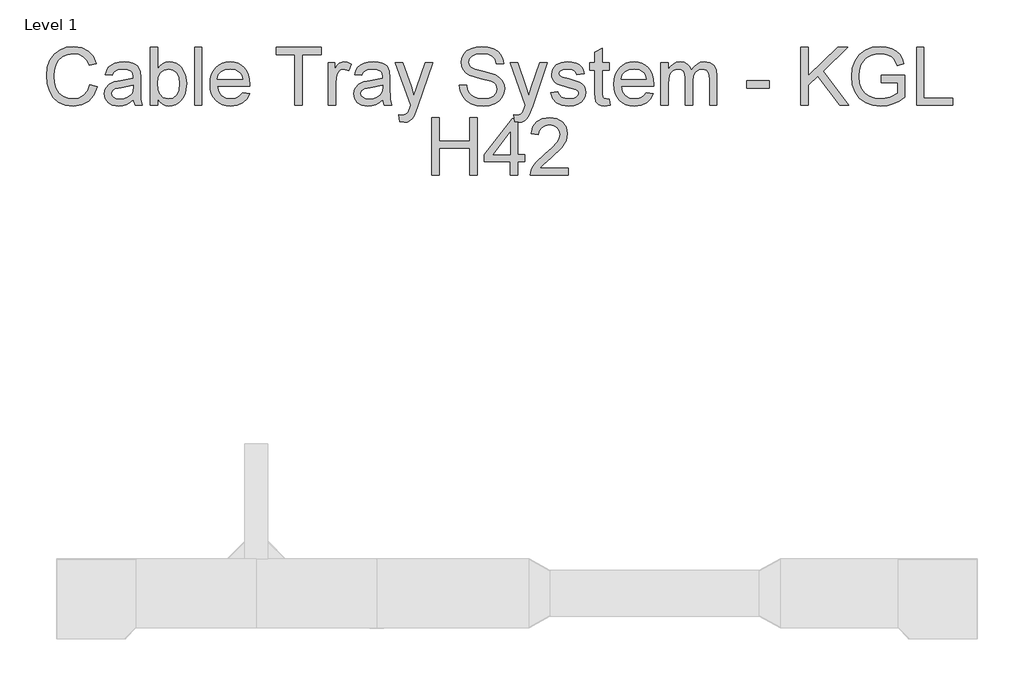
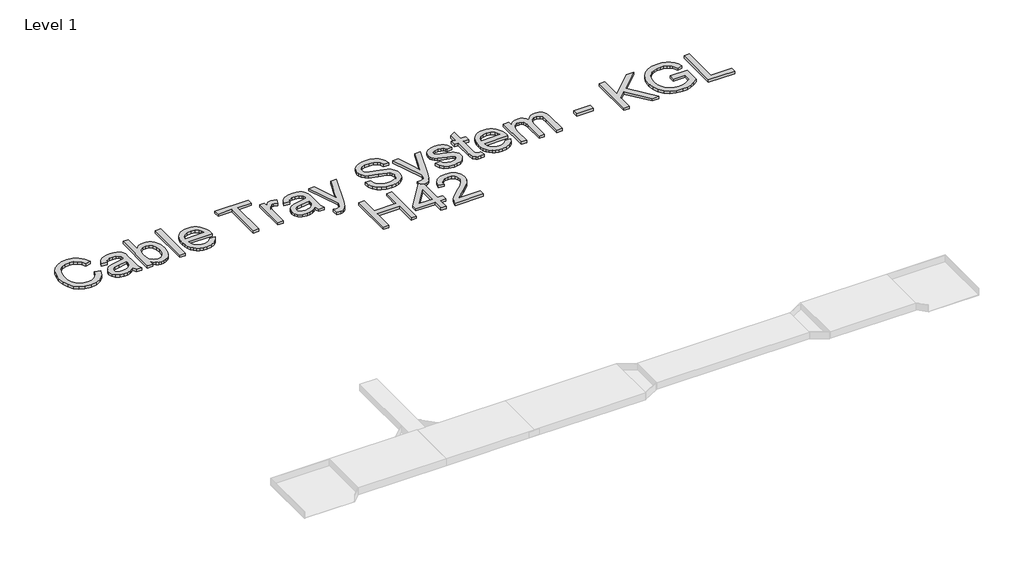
# One storey, part 15 of 32: 1 proxy.
"""IFC4 building model written with IfcOpenShell, lengths in millimetres."""

from ifc_helpers import new_model, si_unit, origin, origin_with_axes, place, context, project, spatial, polyline, outline, extrude, element, save

model = new_model("IFC4")

# Units and contexts
model_context = context("Model", 3, world=origin())
ifc_project = project(units=[si_unit("LENGTHUNIT", "METRE", prefix="MILLI")], contexts=[model_context])

# Site, building, storey
site = spatial("IfcSite", under=ifc_project)
building = spatial("IfcBuilding", under=site)
storey = spatial("IfcBuildingStorey", under=building, Name="Level 1", Elevation=0.0)

# Proxy
placement = place(None, origin())
element("IfcBuildingElementProxy", 1, Name="250mm Arial 3", ObjectType="250mm Arial 3", at=placement, inside=storey, context=model_context, shape_type="SweptSolid", body=[
    extrude(outline(polyline([(-11348.2195106, 71592.4106539), (-11316.8269137, 71584.31725), (-11331.3122672, 71547.7359841), (-11354.0443088, 71521.01089), (-11383.9040641, 71504.6631338), (-11419.7725586, 71499.2138818), (-11456.185212, 71503.3372258), (-11485.1022696, 71515.7072579), (-11507.2671598, 71535.8947824), (-11523.4233108, 71563.4706036), (-11533.2871468, 71595.8902044), (-11536.5750921, 71630.6090677), (-11532.8579511, 71667.2286547), (-11521.7065281, 71698.8511778), (-11503.703303, 71724.472626), (-11479.4307555, 71743.0889878), (-11450.6439894, 71754.4243517), (-11419.0981083, 71758.2028064), (-11384.6781491, 71753.3130415), (-11356.220944, 71738.643747), (-11334.615541, 71715.0992993), (-11320.7509883, 71683.584075), (-11352.1435852, 71676.1038078), (-11363.0267609, 71698.9967978), (-11377.8953249, 71714.7007605), (-11396.9332181, 71723.7828472), (-11420.3243816, 71726.8102095), (-11447.2870662, 71723.4532863), (-11469.436628, 71713.3825166), (-11486.2442366, 71697.6555613), (-11497.1810618, 71677.3300811), (-11503.1821368, 71654.3527848), (-11505.1824952, 71630.6703814), (-11502.8142548, 71601.6690174), (-11495.7095338, 71576.5917281), (-11483.6000848, 71556.3965394), (-11466.2176605, 71542.0414774), (-11445.3786784, 71533.4652284), (-11422.8995556, 71530.6064787), (-11396.6956277, 71534.4998965), (-11374.8602984, 71546.1801498), (-11358.3745865, 71565.5246114), (-11348.2195106, 71592.4106539)])), origin_with_axes(), (0.0, 0.0, 1.0), 15.0),
    extrude(outline(polyline([(-11159.8639291, 71526.6824041), (-11174.8627846, 71513.8218627), (-11190.3061642, 71505.406562), (-11206.5466214, 71500.7620518), (-11223.9367099, 71499.2138818), (-11250.1712947, 71502.938687), (-11269.5234204, 71514.1131026), (-11281.4565927, 71531.0816596), (-11285.4343167, 71552.1888891), (-11283.9321319, 71565.2027147), (-11279.4255775, 71577.0209238), (-11263.6373085, 71595.0471415), (-11241.6563593, 71605.3478374), (-11214.4944053, 71610.0689897), (-11160.04787, 71620.8601949), (-11159.8639291, 71627.8499528), (-11162.0252358, 71641.8601254), (-11168.5091559, 71651.0265185), (-11183.0098379, 71657.8323354), (-11203.2126908, 71660.100941), (-11221.9133589, 71658.591092), (-11234.9731697, 71654.0615449), (-11243.8789797, 71645.6845653), (-11250.1176452, 71632.6324187), (-11281.5102421, 71636.5564933), (-11276.0609901, 71653.7243198), (-11267.9292651, 71667.2133262), (-11256.3563107, 71677.5293505), (-11240.5833702, 71685.1782303), (-11221.292558, 71689.914711), (-11199.1659889, 71691.4935379), (-11177.9437963, 71690.098652), (-11161.1208592, 71685.9139943), (-11148.4365946, 71679.6216794), (-11139.6304193, 71671.9038217), (-11130.0041738, 71650.5973228), (-11128.4713321, 71623.1288005), (-11128.4713321, 71584.0719953), (-11126.8771768, 71529.5334896), (-11120.6231829, 71503.1379564), (-11152.0157798, 71503.1379564), (-11159.8639291, 71526.6824041)]), holes=[polyline([(-11159.8639291, 71589.4675979), (-11210.5090171, 71579.8413524), (-11237.5176869, 71574.7523181), (-11249.7497632, 71566.4749732), (-11254.0417198, 71554.3961811), (-11251.7041363, 71545.0611754), (-11244.6913858, 71537.4122956), (-11233.1567524, 71532.3079329), (-11217.2535203, 71530.6064787), (-11200.3922622, 71532.4842097), (-11185.4930414, 71538.1174028), (-11173.4142492, 71546.4177403), (-11165.014277, 71556.2969047), (-11161.2894718, 71566.4749732), (-11160.04787, 71580.5771164), (-11159.8639291, 71589.4675979)])]), origin_with_axes(), (0.0, 0.0, 1.0), 15.0),
    extrude(outline(polyline([(-11053.9139144, 71503.1379564), (-11085.3065114, 71503.1379564), (-11085.3065114, 71754.2787318), (-11053.9139144, 71754.2787318), (-11053.9139144, 71661.1432733), (-11043.590226, 71674.4215141), (-11031.9329652, 71683.9059718), (-11018.9421323, 71689.5966464), (-11004.6177271, 71691.4935379), (-10988.4462477, 71689.7844195), (-10973.1638165, 71684.6570642), (-10959.6441532, 71676.4333687), (-10948.7609775, 71665.4352299), (-10933.7697862, 71635.5448178), (-10928.3435268, 71598.1128248), (-10933.9613914, 71556.2049342), (-10940.9837222, 71539.2746982), (-10950.8149853, 71525.0269351), (-10962.6159499, 71513.7337243), (-10975.5473853, 71505.6671451), (-10989.6092913, 71500.8271976), (-11004.8016681, 71499.2138818), (-11019.5974221, 71501.2947143), (-11032.7147145, 71507.5372119), (-11044.1535453, 71517.9413746), (-11053.9139144, 71532.5072023), (-11053.9139144, 71503.1379564)]), holes=[polyline([(-11053.9139144, 71596.6412968), (-11051.7679361, 71570.4603615), (-11045.3300012, 71552.7407121), (-11028.8826104, 71536.140037), (-11007.4994694, 71530.6064787), (-10989.3812811, 71534.6838375), (-10973.8995805, 71546.9159138), (-10963.2769879, 71567.2260656), (-10959.7361237, 71595.5376509), (-10963.1313679, 71624.2631033), (-10973.3171007, 71644.3433289), (-10988.3159562, 71656.161538), (-11006.1505687, 71660.100941), (-11024.268757, 71656.0235822), (-11039.7504576, 71643.7915059), (-11050.3730502, 71623.8492361), (-11053.9139144, 71596.6412968)])]), origin_with_axes(), (0.0, 0.0, 1.0), 15.0),
    extrude(outline(polyline([(-10893.0268552, 71503.1379564), (-10893.0268552, 71754.2787318), (-10861.6342583, 71754.2787318), (-10861.6342583, 71503.1379564), (-10893.0268552, 71503.1379564)])), origin_with_axes(), (0.0, 0.0, 1.0), 15.0),
    extrude(outline(polyline([(-10685.4187826, 71558.075001), (-10654.6393223, 71554.1509264), (-10665.7294317, 71530.9590323), (-10683.4260885, 71513.6225933), (-10707.3307539, 71502.8160597), (-10737.0448893, 71499.2138818), (-10756.5234745, 71500.7678), (-10773.879074, 71505.4295547), (-10789.1116879, 71513.1991458), (-10802.2213161, 71524.0765733), (-10812.7634345, 71537.759101), (-10820.2935191, 71553.9439928), (-10824.8115698, 71572.6312485), (-10826.3175868, 71593.8208682), (-10824.7962414, 71615.7290074), (-10820.2322054, 71635.0389801), (-10812.6254788, 71651.7507861), (-10801.9760614, 71665.8644256), (-10788.9009222, 71677.0771622), (-10774.0170298, 71685.0862598), (-10757.3243842, 71689.8917184), (-10738.8229856, 71691.4935379), (-10720.9174791, 71689.8955505), (-10704.7249231, 71685.1015883), (-10690.2453177, 71677.1116512), (-10677.4786629, 71665.9257393), (-10667.0572557, 71651.8427566), (-10659.6133935, 71635.1616074), (-10655.1470761, 71615.8822916), (-10653.6583037, 71594.0048092), (-10653.8422447, 71585.5435233), (-10794.9249898, 71585.5435233), (-10789.4910662, 71562.0450609), (-10776.8681152, 71544.7699355), (-10758.6502923, 71534.1473429), (-10736.4317526, 71530.6064787), (-10719.7237787, 71532.2466193), (-10705.6522923, 71537.1670409), (-10694.2172937, 71545.6743121), (-10685.4187826, 71558.075001)]), holes=[polyline([(-10794.9249898, 71616.9361202), (-10685.0509006, 71616.9361202), (-10689.296872, 71633.5214669), (-10697.6202021, 71645.3856612), (-10715.9223314, 71656.4221211), (-10738.9456129, 71660.100941), (-10760.1064918, 71657.1655493), (-10777.6038792, 71648.359374), (-10789.7669777, 71634.632777), (-10794.9249898, 71616.9361202)])]), origin_with_axes(), (0.0, 0.0, 1.0), 15.0),
    extrude(outline(polyline([(-10457.4545729, 71503.1379564), (-10457.4545729, 71722.8861348), (-10539.8601398, 71722.8861348), (-10539.8601398, 71754.2787318), (-10343.6564091, 71754.2787318), (-10343.6564091, 71722.8861348), (-10426.061976, 71722.8861348), (-10426.061976, 71503.1379564), (-10457.4545729, 71503.1379564)])), origin_with_axes(), (0.0, 0.0, 1.0), 15.0),
    extrude(outline(polyline([(-10312.2638122, 71503.1379564), (-10312.2638122, 71687.5694633), (-10284.7952899, 71687.5694633), (-10284.7952899, 71660.284882), (-10274.6478782, 71676.1038078), (-10265.2975441, 71685.423485), (-10245.677171, 71691.4935379), (-10230.0421862, 71689.0716481), (-10214.1619468, 71681.8059787), (-10224.6465836, 71653.6630061), (-10246.7195034, 71660.100941), (-10256.09283, 71658.5527709), (-10264.4698096, 71653.9082608), (-10275.782181, 71636.7404343), (-10280.8712152, 71600.0748621), (-10280.8712152, 71503.1379564), (-10312.2638122, 71503.1379564)])), origin_with_axes(), (0.0, 0.0, 1.0), 15.0),
    extrude(outline(polyline([(-10076.8193353, 71526.6824041), (-10091.8181908, 71513.8218627), (-10107.2615704, 71505.406562), (-10123.5020276, 71500.7620518), (-10140.8921161, 71499.2138818), (-10167.1267009, 71502.938687), (-10186.4788266, 71514.1131026), (-10198.4119989, 71531.0816596), (-10202.3897229, 71552.1888891), (-10200.8875381, 71565.2027147), (-10196.3809837, 71577.0209238), (-10180.5927147, 71595.0471415), (-10158.6117655, 71605.3478374), (-10131.4498115, 71610.0689897), (-10077.0032762, 71620.8601949), (-10076.8193353, 71627.8499528), (-10078.980642, 71641.8601254), (-10085.4645621, 71651.0265185), (-10099.9652441, 71657.8323354), (-10120.168097, 71660.100941), (-10138.8687651, 71658.591092), (-10151.9285759, 71654.0615449), (-10160.8343859, 71645.6845653), (-10167.0730514, 71632.6324187), (-10198.4656483, 71636.5564933), (-10193.0163963, 71653.7243198), (-10184.8846713, 71667.2133262), (-10173.3117169, 71677.5293505), (-10157.5387764, 71685.1782303), (-10138.2479642, 71689.914711), (-10116.1213951, 71691.4935379), (-10094.8992025, 71690.098652), (-10078.0762654, 71685.9139943), (-10065.3920008, 71679.6216794), (-10056.5858255, 71671.9038217), (-10046.95958, 71650.5973228), (-10045.4267383, 71623.1288005), (-10045.4267383, 71584.0719953), (-10043.832583, 71529.5334896), (-10037.5785891, 71503.1379564), (-10068.971186, 71503.1379564), (-10076.8193353, 71526.6824041)]), holes=[polyline([(-10076.8193353, 71589.4675979), (-10127.4644233, 71579.8413524), (-10154.4730931, 71574.7523181), (-10166.7051694, 71566.4749732), (-10170.997126, 71554.3961811), (-10168.6595425, 71545.0611754), (-10161.646792, 71537.4122956), (-10150.1121586, 71532.3079329), (-10134.2089265, 71530.6064787), (-10117.3476684, 71532.4842097), (-10102.4484476, 71538.1174028), (-10090.3696554, 71546.4177403), (-10081.9696832, 71556.2969047), (-10078.244878, 71566.4749732), (-10077.0032762, 71580.5771164), (-10076.8193353, 71589.4675979)])]), origin_with_axes(), (0.0, 0.0, 1.0), 15.0),
    extrude(outline(polyline([(-10002.2619176, 71432.5046133), (-10006.1859922, 71462.7322506), (-9990.2444391, 71459.9731356), (-9975.3452182, 71463.4373577), (-9966.209482, 71473.0942601), (-9957.6255688, 71496.2095122), (-9955.1730222, 71503.8124067), (-10021.8822906, 71687.5694633), (-9988.7729111, 71687.5694633), (-9953.3949259, 71585.1756413), (-9941.070879, 71544.2181125), (-9928.7468322, 71580.3931754), (-9892.3878283, 71687.5694633), (-9859.5237034, 71687.5694633), (-9923.7191116, 71498.7233725), (-9940.3964287, 71457.7658437), (-9948.9343567, 71444.6907044), (-9958.6065875, 71435.6316103), (-9969.8423167, 71430.3433066), (-9983.0707401, 71428.5805387), (-10002.2619176, 71432.5046133)])), origin_with_axes(), (0.0, 0.0, 1.0), 15.0),
    extrude(outline(polyline([(-9743.272993, 71589.4675979), (-9711.880396, 71589.4675979), (-9708.2782182, 71572.0468526), (-9701.7636412, 71558.0443442), (-9691.6009011, 71546.9312422), (-9677.0542338, 71538.1787164), (-9659.2732707, 71532.4995381), (-9639.407643, 71530.6064787), (-9621.9179198, 71532.0396856), (-9606.6048318, 71536.3393065), (-9594.1964786, 71543.1451234), (-9585.4209602, 71552.0969186), (-9580.2016344, 71562.3746218), (-9578.4618591, 71573.1581628), (-9583.6735207, 71592.7478791), (-9591.6136404, 71600.4963936), (-9605.0106764, 71607.0033064), (-9650.7200143, 71618.990128), (-9699.9242312, 71634.4718287), (-9715.5515518, 71645.0331076), (-9726.6263327, 71657.8323354), (-9733.225216, 71672.5936004), (-9735.4248437, 71689.0409913), (-9732.7040498, 71707.4274268), (-9724.541668, 71724.5722607), (-9711.1522963, 71739.1035995), (-9692.7505323, 71749.64955), (-9670.6622842, 71756.0644923), (-9646.2134599, 71758.2028064), (-9619.7259562, 71755.9648576), (-9596.5493905, 71749.2510112), (-9577.5114973, 71738.1992229), (-9563.440011, 71722.9474485), (-9554.534201, 71704.4460498), (-9550.9933368, 71683.6453887), (-9582.3859337, 71683.6453887), (-9588.1494183, 71702.3767136), (-9600.1668968, 71715.8963769), (-9618.944207, 71724.0817513), (-9644.9871866, 71726.8102095), (-9671.6433028, 71724.1124082), (-9689.9301037, 71716.0190043), (-9700.506711, 71704.1088247), (-9704.0322468, 71689.9606963), (-9701.5337149, 71677.8972325), (-9694.0381193, 71668.1943449), (-9676.3184698, 71659.5184612), (-9642.7798946, 71650.6586365), (-9587.2297133, 71634.9010243), (-9569.3337871, 71623.5120109), (-9556.8487919, 71609.455853), (-9549.5141446, 71592.8858348), (-9547.0692622, 71573.9552405), (-9549.8820266, 71554.6031147), (-9558.3203199, 71536.4006201), (-9572.0392526, 71520.7349785), (-9590.6939355, 71508.9934115), (-9613.127073, 71501.6587642), (-9638.1813697, 71499.2138818), (-9668.9378373, 71501.8503694), (-9694.2527171, 71509.7598323), (-9714.417249, 71522.9729273), (-9729.7226728, 71541.5203112), (-9739.5481878, 71564.1143971), (-9743.272993, 71589.4675979)])), origin_with_axes(), (0.0, 0.0, 1.0), 15.0),
    extrude(outline(polyline([(-9503.9044414, 71432.5046133), (-9507.828516, 71462.7322506), (-9491.8869629, 71459.9731356), (-9476.9877421, 71463.4373577), (-9467.8520059, 71473.0942601), (-9459.2680927, 71496.2095122), (-9456.815546, 71503.8124067), (-9523.5248145, 71687.5694633), (-9490.4154349, 71687.5694633), (-9455.0374497, 71585.1756413), (-9442.7134029, 71544.2181125), (-9430.3893561, 71580.3931754), (-9394.0303522, 71687.5694633), (-9361.1662273, 71687.5694633), (-9425.3616355, 71498.7233725), (-9442.0389526, 71457.7658437), (-9450.5768805, 71444.6907044), (-9460.2491113, 71435.6316103), (-9471.4848406, 71430.3433066), (-9484.713264, 71428.5805387), (-9503.9044414, 71432.5046133)])), origin_with_axes(), (0.0, 0.0, 1.0), 15.0),
    extrude(outline(polyline([(-9346.9414568, 71558.075001), (-9315.5488599, 71561.9990756), (-9310.5977814, 71548.5713828), (-9301.0175211, 71538.6998826), (-9286.7467654, 71532.6298297), (-9267.7242005, 71530.6064787), (-9248.9315619, 71532.4612171), (-9235.7184669, 71538.0254323), (-9227.9009745, 71546.0881793), (-9225.2951437, 71555.4385134), (-9227.916303, 71563.4399468), (-9235.7797806, 71569.5406565), (-9268.0920825, 71578.4924517), (-9315.3649189, 71593.851525), (-9327.328748, 71601.5693827), (-9335.9969675, 71611.7857723), (-9341.2622785, 71623.8492361), (-9343.0173822, 71637.1083163), (-9337.3765249, 71660.4994798), (-9321.9867948, 71678.3724134), (-9302.0291966, 71687.6614338), (-9275.0205268, 71691.4935379), (-9254.5877476, 71689.9530321), (-9236.8221129, 71685.3315145), (-9222.5360288, 71678.0811735), (-9212.5419012, 71668.6541974), (-9205.9200253, 71656.3531432), (-9201.7506961, 71640.4805679), (-9233.143293, 71636.5564933), (-9237.1056886, 71646.4356577), (-9244.9461737, 71653.8776039), (-9256.7413901, 71658.5451067), (-9272.5679801, 71660.100941), (-9290.5941979, 71658.6140846), (-9302.6116764, 71654.1535154), (-9309.3715081, 71647.7155805), (-9311.6247853, 71640.2966269), (-9307.8846517, 71631.1608907), (-9296.1737415, 71624.2324465), (-9269.1344148, 71617.5492569), (-9223.0571949, 71602.7726634), (-9210.8864323, 71595.7062634), (-9201.6587256, 71586.0340326), (-9195.8415915, 71573.7253142), (-9193.9025468, 71558.7494513), (-9196.1788167, 71543.2677507), (-9203.0076262, 71528.7057551), (-9214.1283924, 71516.2054314), (-9229.280532, 71506.9087468), (-9247.5826613, 71501.137598), (-9268.1533962, 71499.2138818), (-9299.8065762, 71502.9233586), (-9322.9064998, 71514.0517889), (-9338.3268868, 71532.4765455), (-9346.9414568, 71558.075001)])), origin_with_axes(), (0.0, 0.0, 1.0), 15.0),
    extrude(outline(polyline([(-9091.8766068, 71529.3188917), (-9087.9525322, 71502.2182514), (-9111.4356662, 71499.2138818), (-9126.5034996, 71500.5167972), (-9137.7392289, 71504.4255434), (-9150.8603534, 71518.0984909), (-9154.6618007, 71553.7217307), (-9154.6618007, 71656.1768664), (-9178.2062484, 71656.1768664), (-9178.2062484, 71687.5694633), (-9154.6618007, 71687.5694633), (-9154.6618007, 71732.3897531), (-9123.2692038, 71750.8451665), (-9123.2692038, 71687.5694633), (-9091.8766068, 71687.5694633), (-9091.8766068, 71656.1768664), (-9123.2692038, 71656.1768664), (-9123.2692038, 71554.6414357), (-9121.6137348, 71538.4546279), (-9116.248789, 71532.7218002), (-9105.5495543, 71530.6064787), (-9091.8766068, 71529.3188917)])), origin_with_axes(), (0.0, 0.0, 1.0), 15.0),
    extrude(outline(polyline([(-8931.3574296, 71558.075001), (-8900.5779693, 71554.1509264), (-8911.6680787, 71530.9590323), (-8929.3647355, 71513.6225933), (-8953.2694009, 71502.8160597), (-8982.9835363, 71499.2138818), (-9002.4621215, 71500.7678), (-9019.817721, 71505.4295547), (-9035.0503349, 71513.1991458), (-9048.1599631, 71524.0765733), (-9058.7020815, 71537.759101), (-9066.2321661, 71553.9439928), (-9070.7502168, 71572.6312485), (-9072.2562338, 71593.8208682), (-9070.7348884, 71615.7290074), (-9066.1708524, 71635.0389801), (-9058.5641257, 71651.7507861), (-9047.9147084, 71665.8644256), (-9034.8395692, 71677.0771622), (-9019.9556768, 71685.0862598), (-9003.2630312, 71689.8917184), (-8984.7616326, 71691.4935379), (-8966.8561261, 71689.8955505), (-8950.6635701, 71685.1015883), (-8936.1839647, 71677.1116512), (-8923.4173099, 71665.9257393), (-8912.9959027, 71651.8427566), (-8905.5520405, 71635.1616074), (-8901.0857231, 71615.8822916), (-8899.5969507, 71594.0048092), (-8899.7808917, 71585.5435233), (-9040.8636368, 71585.5435233), (-9035.4297132, 71562.0450609), (-9022.8067622, 71544.7699355), (-9004.5889393, 71534.1473429), (-8982.3703996, 71530.6064787), (-8965.6624257, 71532.2466193), (-8951.5909393, 71537.1670409), (-8940.1559407, 71545.6743121), (-8931.3574296, 71558.075001)]), holes=[polyline([(-9040.8636368, 71616.9361202), (-8930.9895476, 71616.9361202), (-8935.235519, 71633.5214669), (-8943.5588491, 71645.3856612), (-8961.8609784, 71656.4221211), (-8984.8842599, 71660.100941), (-9006.0451388, 71657.1655493), (-9023.5425262, 71648.359374), (-9035.7056247, 71634.632777), (-9040.8636368, 71616.9361202)])]), origin_with_axes(), (0.0, 0.0, 1.0), 15.0),
    extrude(outline(polyline([(-8868.2043538, 71503.1379564), (-8868.2043538, 71687.5694633), (-8836.8117568, 71687.5694633), (-8836.8117568, 71657.2191987), (-8827.3694523, 71671.1603935), (-8815.2293465, 71682.0818902), (-8800.8053066, 71689.140626), (-8784.5111999, 71691.4935379), (-8767.0521335, 71689.0946407), (-8753.0572893, 71681.8979492), (-8742.6033092, 71670.3786442), (-8735.7668355, 71655.0119067), (-8724.3241726, 71670.9726204), (-8711.272026, 71682.3731301), (-8696.6103956, 71689.213436), (-8680.3392816, 71691.4935379), (-8656.7411844, 71687.6997549), (-8639.2897823, 71676.3184056), (-8628.5062413, 71657.0429219), (-8624.9117276, 71629.5667354), (-8624.9117276, 71503.1379564), (-8656.3043245, 71503.1379564), (-8656.3043245, 71616.0777289), (-8659.2167237, 71642.2893211), (-8669.7626742, 71655.1958477), (-8687.6969215, 71660.100941), (-8704.7037995, 71656.9586156), (-8718.5683522, 71647.5316395), (-8727.7883947, 71631.1762191), (-8730.8617422, 71607.248561), (-8730.8617422, 71503.1379564), (-8762.2543392, 71503.1379564), (-8762.2543392, 71619.5726079), (-8764.0707565, 71637.3229141), (-8769.5200086, 71649.9841861), (-8779.1079331, 71657.5717523), (-8793.3403677, 71660.100941), (-8805.4344883, 71658.4148152), (-8816.5782471, 71653.3564378), (-8825.775297, 71645.048436), (-8832.0292909, 71633.6134374), (-8836.8117568, 71596.1507875), (-8836.8117568, 71503.1379564), (-8868.2043538, 71503.1379564)])), origin_with_axes(), (0.0, 0.0, 1.0), 15.0),
    extrude(outline(polyline([(-8495.4172653, 71577.6953741), (-8495.4172653, 71609.087971), (-8397.3153999, 71609.087971), (-8397.3153999, 71577.6953741), (-8495.4172653, 71577.6953741)])), origin_with_axes(), (0.0, 0.0, 1.0), 15.0),
    extrude(outline(polyline([(-8259.9727884, 71503.1379564), (-8259.9727884, 71754.2787318), (-8228.5801915, 71754.2787318), (-8228.5801915, 71631.3448317), (-8099.8214932, 71754.2787318), (-8055.9209084, 71754.2787318), (-8164.0169013, 71651.0265185), (-8051.9968338, 71503.1379564), (-8090.3791886, 71503.1379564), (-8186.273762, 71629.8119901), (-8228.5801915, 71589.4675979), (-8228.5801915, 71503.1379564), (-8259.9727884, 71503.1379564)])), origin_with_axes(), (0.0, 0.0, 1.0), 15.0),
    extrude(outline(polyline([(-7910.7301477, 71601.2398218), (-7910.7301477, 71632.6324187), (-7808.7042077, 71632.6324187), (-7808.7042077, 71538.7611963), (-7833.4979213, 71521.5167277), (-7859.0733842, 71509.1466957), (-7885.3692826, 71501.6970852), (-7912.324303, 71499.2138818), (-7947.5413398, 71503.160949), (-7979.3707966, 71515.0021507), (-8005.812315, 71534.3236197), (-8024.8655367, 71560.7114886), (-8036.3848416, 71592.3646686), (-8040.22461, 71627.4820708), (-8036.40017, 71662.8523918), (-8024.9268503, 71695.7548377), (-8006.2798317, 71723.3536516), (-7980.9342951, 71742.8130763), (-7950.0628643, 71754.3553739), (-7914.8381633, 71758.2028064), (-7888.9791247, 71755.9725218), (-7865.7259169, 71749.281668), (-7846.1438649, 71738.6130901), (-7831.2982935, 71724.4496333), (-7820.3154831, 71706.109183), (-7812.3217139, 71682.9096247), (-7841.2617642, 71674.7549071), (-7855.5785052, 71703.7869279), (-7865.9711716, 71713.1985756), (-7880.0426579, 71720.5255587), (-7896.8196097, 71725.2390468), (-7915.3286726, 71726.8102095), (-7936.9953893, 71725.1164194), (-7955.5197806, 71720.0350494), (-7970.8328686, 71712.2022286), (-7982.8656755, 71702.2540863), (-7999.0218265, 71678.0658451), (-8006.3794664, 71654.3681132), (-8008.832013, 71628.7696577), (-8005.8812929, 71598.7489541), (-7997.0291324, 71574.047211), (-7982.5437788, 71554.8407051), (-7962.6934795, 71541.3057134), (-7939.4632643, 71533.2812874), (-7914.8381633, 71530.6064787), (-7893.0948045, 71532.6221655), (-7871.8879403, 71538.6692258), (-7840.0968046, 71555.867709), (-7840.0968046, 71601.2398218), (-7910.7301477, 71601.2398218)])), origin_with_axes(), (0.0, 0.0, 1.0), 15.0),
    extrude(outline(polyline([(-7757.6912377, 71503.1379564), (-7757.6912377, 71754.2787318), (-7726.2986407, 71754.2787318), (-7726.2986407, 71534.5305533), (-7600.728253, 71534.5305533), (-7600.728253, 71503.1379564), (-7757.6912377, 71503.1379564)])), origin_with_axes(), (0.0, 0.0, 1.0), 15.0),
    extrude(outline(polyline([(-9862.9572687, 71198.2009118), (-9862.9572687, 71449.3416872), (-9831.5646718, 71449.3416872), (-9831.5646718, 71347.3157472), (-9698.1461349, 71347.3157472), (-9698.1461349, 71449.3416872), (-9666.753538, 71449.3416872), (-9666.753538, 71198.2009118), (-9698.1461349, 71198.2009118), (-9698.1461349, 71315.9231502), (-9831.5646718, 71315.9231502), (-9831.5646718, 71198.2009118), (-9862.9572687, 71198.2009118)])), origin_with_axes(), (0.0, 0.0, 1.0), 15.0),
    extrude(outline(polyline([(-9521.5627772, 71198.2009118), (-9521.5627772, 71257.062031), (-9635.360941, 71257.062031), (-9635.360941, 71288.4546279), (-9513.714628, 71445.4176125), (-9490.1701803, 71445.4176125), (-9490.1701803, 71288.4546279), (-9458.7775834, 71288.4546279), (-9458.7775834, 71257.062031), (-9490.1701803, 71257.062031), (-9490.1701803, 71198.2009118), (-9521.5627772, 71198.2009118)]), holes=[polyline([(-9521.5627772, 71288.4546279), (-9521.5627772, 71385.4528473), (-9596.7333315, 71288.4546279), (-9521.5627772, 71288.4546279)])]), origin_with_axes(), (0.0, 0.0, 1.0), 15.0),
    extrude(outline(polyline([(-9270.4220018, 71229.5935087), (-9270.4220018, 71198.2009118), (-9435.2331357, 71198.2009118), (-9431.860884, 71219.8446358), (-9424.1200337, 71236.7595434), (-9412.792334, 71253.1686132), (-9373.4902741, 71289.5582739), (-9339.6144738, 71319.6479554), (-9319.2889935, 71341.8588309), (-9309.1262534, 71359.8850487), (-9305.7386734, 71377.4207571), (-9308.9346482, 71393.1400482), (-9318.5225727, 71406.2075232), (-9333.2608451, 71415.0136985), (-9351.9078638, 71417.9490902), (-9371.4899158, 71415.0826764), (-9386.7033691, 71406.4834347), (-9396.5212199, 71392.8258156), (-9399.9164641, 71374.7842695), (-9431.309061, 71378.7083441), (-9423.6985023, 71409.0739371), (-9407.2434472, 71431.2541557), (-9382.8022871, 71444.8198043), (-9351.2334134, 71449.3416872), (-9319.4346135, 71444.3139666), (-9295.0394387, 71429.2308048), (-9279.519417, 71406.6980325), (-9274.3460764, 71379.3214807), (-9279.92562, 71349.553696), (-9298.473004, 71318.7742357), (-9343.4465779, 71275.7626991), (-9379.5603271, 71245.5657187), (-9393.7237839, 71229.5935087), (-9270.4220018, 71229.5935087)])), origin_with_axes(), (0.0, 0.0, 1.0), 15.0),
])

save(model, "model.ifc")
